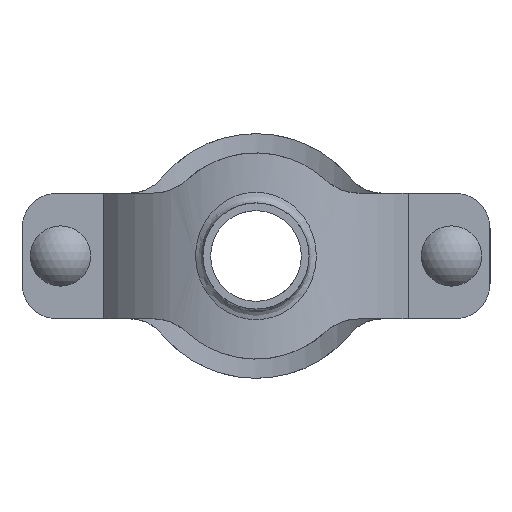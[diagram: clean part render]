
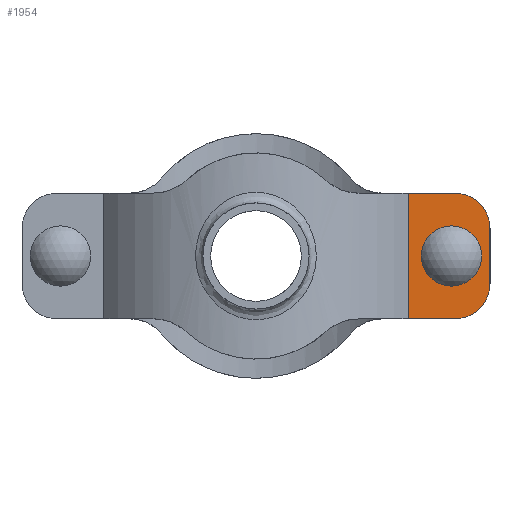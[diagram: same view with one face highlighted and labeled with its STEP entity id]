
A CAD part, front view. The second image highlights one B-rep face of the part: STEP entity #1954.
In plain terms, the highlighted planar face has unit normal (0, -1, 0) as drawn and (0, 1, 0) by its records, which use the part's own axes.
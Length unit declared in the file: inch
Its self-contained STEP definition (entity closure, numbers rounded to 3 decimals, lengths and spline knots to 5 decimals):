
#127=FACE_BOUND('',#347,.T.);
#220=FACE_OUTER_BOUND('',#346,.T.);
#346=EDGE_LOOP('',(#1635,#1636,#1637,#1638,#1639,#1640));
#347=EDGE_LOOP('',(#1641,#1642,#1643,#1644));
#457=LINE('',#3695,#603);
#468=LINE('',#3773,#614);
#472=LINE('',#3784,#618);
#494=LINE('',#4009,#640);
#495=LINE('',#4011,#641);
#496=LINE('',#4015,#642);
#603=VECTOR('',#2573,0.3937);
#614=VECTOR('',#2610,0.3937);
#618=VECTOR('',#2622,0.3937);
#640=VECTOR('',#2704,0.3937);
#641=VECTOR('',#2705,0.3937);
#642=VECTOR('',#2708,0.3937);
#716=CIRCLE('',#2166,0.343);
#718=CIRCLE('',#2170,0.343);
#735=CIRCLE('',#2203,0.63);
#736=CIRCLE('',#2204,0.63);
#860=VERTEX_POINT('',#3692);
#861=VERTEX_POINT('',#3694);
#873=VERTEX_POINT('',#3763);
#874=VERTEX_POINT('',#3764);
#877=VERTEX_POINT('',#3772);
#879=VERTEX_POINT('',#3778);
#911=VERTEX_POINT('',#4008);
#912=VERTEX_POINT('',#4010);
#913=VERTEX_POINT('',#4012);
#914=VERTEX_POINT('',#4014);
#1091=EDGE_CURVE('',#861,#860,#457,.T.);
#1108=EDGE_CURVE('',#873,#874,#716,.T.);
#1112=EDGE_CURVE('',#874,#877,#468,.T.);
#1115=EDGE_CURVE('',#877,#879,#718,.T.);
#1118=EDGE_CURVE('',#879,#873,#472,.T.);
#1162=EDGE_CURVE('',#861,#911,#494,.T.);
#1163=EDGE_CURVE('',#912,#860,#495,.T.);
#1164=EDGE_CURVE('',#913,#912,#735,.T.);
#1165=EDGE_CURVE('',#914,#913,#496,.T.);
#1166=EDGE_CURVE('',#911,#914,#736,.T.);
#1635=ORIENTED_EDGE('',*,*,#1162,.F.);
#1636=ORIENTED_EDGE('',*,*,#1091,.T.);
#1637=ORIENTED_EDGE('',*,*,#1163,.F.);
#1638=ORIENTED_EDGE('',*,*,#1164,.F.);
#1639=ORIENTED_EDGE('',*,*,#1165,.F.);
#1640=ORIENTED_EDGE('',*,*,#1166,.F.);
#1641=ORIENTED_EDGE('',*,*,#1115,.T.);
#1642=ORIENTED_EDGE('',*,*,#1118,.T.);
#1643=ORIENTED_EDGE('',*,*,#1108,.T.);
#1644=ORIENTED_EDGE('',*,*,#1112,.T.);
#1751=PLANE('',#2202);
#1954=ADVANCED_FACE('',(#220,#127),#1751,.F.);
#2166=AXIS2_PLACEMENT_3D('',#3765,#2602,#2603);
#2170=AXIS2_PLACEMENT_3D('',#3779,#2615,#2616);
#2202=AXIS2_PLACEMENT_3D('',#4007,#2702,#2703);
#2203=AXIS2_PLACEMENT_3D('',#4013,#2706,#2707);
#2204=AXIS2_PLACEMENT_3D('',#4016,#2709,#2710);
#2573=DIRECTION('',(0.,0.,-1.));
#2602=DIRECTION('center_axis',(0.,-1.,0.));
#2603=DIRECTION('ref_axis',(-1.,0.,0.));
#2610=DIRECTION('',(0.,0.,-1.));
#2615=DIRECTION('center_axis',(0.,-1.,0.));
#2616=DIRECTION('ref_axis',(1.,0.,0.));
#2622=DIRECTION('',(0.,0.,1.));
#2702=DIRECTION('center_axis',(0.,-1.,0.));
#2703=DIRECTION('ref_axis',(1.,0.,0.));
#2704=DIRECTION('',(-1.,0.,0.));
#2705=DIRECTION('',(1.,0.,0.));
#2706=DIRECTION('center_axis',(0.,-1.,0.));
#2707=DIRECTION('ref_axis',(0.,0.,-1.));
#2708=DIRECTION('',(0.,0.,-1.));
#2709=DIRECTION('center_axis',(0.,-1.,0.));
#2710=DIRECTION('ref_axis',(-1.,0.,0.));
#3692=CARTESIAN_POINT('',(-2.72478,2.,-1.125));
#3694=CARTESIAN_POINT('',(-2.72478,2.,1.125));
#3695=CARTESIAN_POINT('',(-2.72478,2.,0.));
#3763=CARTESIAN_POINT('',(-3.157,2.,0.0945));
#3764=CARTESIAN_POINT('',(-3.843,2.,0.0945));
#3765=CARTESIAN_POINT('Origin',(-3.5,2.,0.0945));
#3772=CARTESIAN_POINT('',(-3.843,2.,-0.0945));
#3773=CARTESIAN_POINT('',(-3.843,2.,-0.04725));
#3778=CARTESIAN_POINT('',(-3.157,2.,-0.0945));
#3779=CARTESIAN_POINT('Origin',(-3.5,2.,-0.0945));
#3784=CARTESIAN_POINT('',(-3.157,2.,0.04725));
#4007=CARTESIAN_POINT('Origin',(-4.19,2.,0.));
#4008=CARTESIAN_POINT('',(-3.56,2.,1.125));
#4009=CARTESIAN_POINT('',(-3.875,2.,1.125));
#4010=CARTESIAN_POINT('',(-3.56,2.,-1.125));
#4011=CARTESIAN_POINT('',(-3.01771,2.,-1.125));
#4012=CARTESIAN_POINT('',(-4.19,2.,-0.495));
#4013=CARTESIAN_POINT('Origin',(-3.56,2.,-0.495));
#4014=CARTESIAN_POINT('',(-4.19,2.,0.495));
#4015=CARTESIAN_POINT('',(-4.19,2.,-0.2475));
#4016=CARTESIAN_POINT('Origin',(-3.56,2.,0.495));
